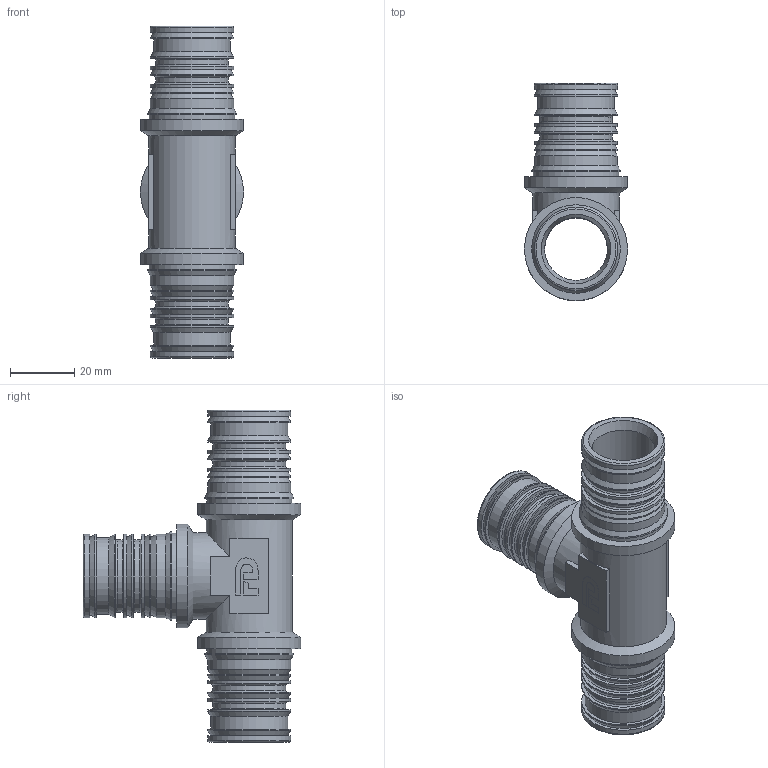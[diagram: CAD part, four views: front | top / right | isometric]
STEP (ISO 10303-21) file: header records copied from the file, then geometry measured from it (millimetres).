
FILE_DESCRIPTION(/* description */ (''),/* implementation_level */ '2;1');
FILE_NAME(/* name */ 'C:\Users\Doom\Desktop\Фадотех\Пресс\HDT35-1 31.03.2020\HDT35-1 31.03.2020.stp',/* time_stamp */ '2022-08-12T21:39:38+03:00',/* author */ ('Doom'),/* organization */ (''),/* preprocessor_version */ 'ST-DEVELOPER v18',/* originating_system */ 'Autodesk Inventor 2020',/* authorisation */ '');
FILE_SCHEMA (('AUTOMOTIVE_DESIGN { 1 0 10303 214 3 1 1 }'));
Length unit declared in the file: millimetre
Products named in the file (1): HDT35-1 31.03.2020
Bounding box: 32 x 67.5 x 103 mm (x, y, z)
Volume: 33254.3 mm3; surface area: 24763.7 mm2
Topology: 1 solids, 1 shells, 179 faces, 492 edges, 353 vertices
Faces by surface type: plane 86, cylinder 46, cone 24, torus 15, bspline 8
Full cylindrical faces by diameter (mm): 19.5 x2, 22.6 x6, 23.8 x3, 25.8 x24, 26.5 x3, 26.7 x2, 27.5 x3, 32 x3
Entity records: 6035 total; most frequent: CARTESIAN_POINT 1129, DIRECTION 1092, ORIENTED_EDGE 984, EDGE_CURVE 492, AXIS2_PLACEMENT_3D 444, VERTEX_POINT 353, CIRCLE 266, EDGE_LOOP 221
